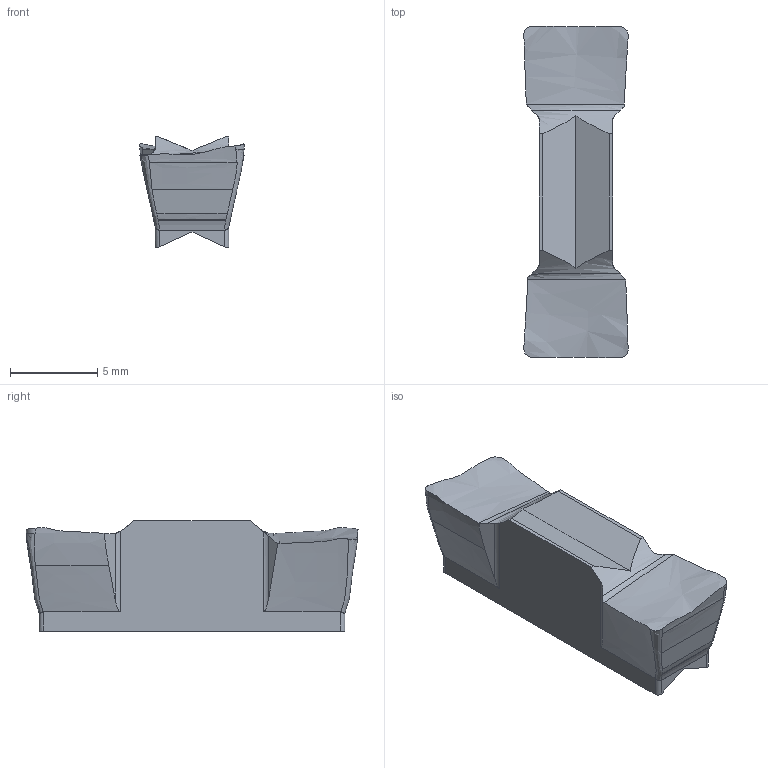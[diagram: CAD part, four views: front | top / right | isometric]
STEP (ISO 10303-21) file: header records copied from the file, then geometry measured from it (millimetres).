
FILE_DESCRIPTION(('CATIA V5 STEP','CAx-IF Rec.Pracs.--- Model Styling and Organization---1.2---2011-12-15'),'2;1');
FILE_NAME('I:\isr\design\admin8\users\weaam_s\6200442D.stp','2017-05-16T05:28:31+00:00',('none'),('none'),'CATIA Version 5 Release 21 SP 5 (IN-10)','CATIA V5 STEP AP214','none');
FILE_SCHEMA(('AUTOMOTIVE_DESIGN { 1 0 10303 214 1 1 1 1 }'));
Length unit declared in the file: millimetre
Products named in the file (1): GRIP 6005Y
Bounding box: 5.97 x 18.98 x 6.31 mm (x, y, z)
Volume: 431.3 mm3; surface area: 442.4 mm2
Topology: 1 solids, 1 shells, 58 faces, 228 edges, 173 vertices
Faces by surface type: bspline 32, plane 18, cylinder 8
Entity records: 8808 total; most frequent: CARTESIAN_POINT 7327, ORIENTED_EDGE 412, EDGE_CURVE 206, B_SPLINE_CURVE_WITH_KNOTS 184, VERTEX_POINT 150, DIRECTION 98, ADVANCED_FACE 58, EDGE_LOOP 58
